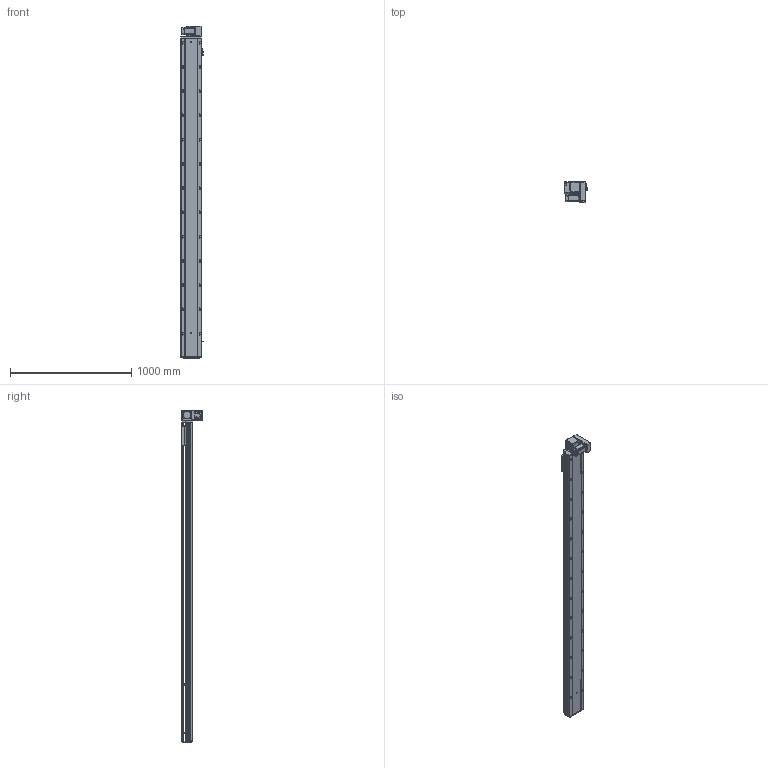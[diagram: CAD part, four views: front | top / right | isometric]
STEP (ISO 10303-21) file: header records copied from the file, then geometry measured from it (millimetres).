
FILE_DESCRIPTION (( 'STEP AP203' ), '1' );
FILE_NAME ('RY170-T-300-DR-P400W.SLDASM_2350.step', '2021-03-01T08:25:28', ( '盈信电脑' ), ( '东莞市道滘镇水果街19号' ), 'SwSTEP 2.0', 'SolidWorks 2012', '' );
FILE_SCHEMA (( 'CONFIG_CONTROL_DESIGN' ));
Length unit declared in the file: millimetre
Products named in the file (19): RY170-T-呴雄粣揤踡啣; RY170-T-300-DR-P400W.SLDASM_2350; 15; RY120-T主同步轮轴承压盖; 滅袉蝶18-10; RY170-T肮祭謫裔啣; RY170-T蹟翐M4; RY170-T肮祭湍揤踡輸2; RY170同步轮电机安装板(400W); RY170肮祭謫萇儂欶; RY170-T肮祭湍揤踡輸1; RY170翋肮祭謫釱; RY170肮祭謫ヶ裔啣; RY170外置感应片(200共用）; RY170肮祭湍臏賑輸; RY170-T-300肮祭謫倰第裔啣-DR_2350; 覜茼ん672; RY170綴裔啣; RY170-T-300肮祭謫倰第菁釱-DR_2350
Assembly tree (23 placements, depth 2):
  RY170-T-300-DR-P400W.SLDASM_2350
    RY170-T-300肮祭謫倰第菁釱-DR_2350
    RY170肮祭湍臏賑輸
    RY170-T-300肮祭謫倰第裔啣-DR_2350
    RY170綴裔啣
    覜茼ん672  x3
    RY170外置感应片(200共用）
    RY170肮祭謫ヶ裔啣
    RY170翋肮祭謫釱
    RY170同步轮电机安装板(400W)
    RY170肮祭謫萇儂欶
    RY170-T肮祭湍揤踡輸1  x2
    RY170-T肮祭湍揤踡輸2  x2
    RY120-T主同步轮轴承压盖
    RY170-T肮祭謫裔啣
    RY170-T蹟翐M4
    滅袉蝶18-10  x2
    RY170-T-呴雄粣揤踡啣
    15
Bounding box: 183.7 x 178 x 2738 mm (x, y, z)
Volume: 12547533.3 mm3; surface area: 4337087.2 mm2
Topology: 23 solids, 23 shells, 3098 faces, 8706 edges, 5539 vertices
Faces by surface type: cylinder 1464, plane 1276, cone 328, bspline 30
Entity records: 94893 total; most frequent: CARTESIAN_POINT 22179, ORIENTED_EDGE 14936, DIRECTION 14528, EDGE_CURVE 7468, AXIS2_PLACEMENT_3D 5178, VERTEX_POINT 4895, LINE 4172, VECTOR 4172
